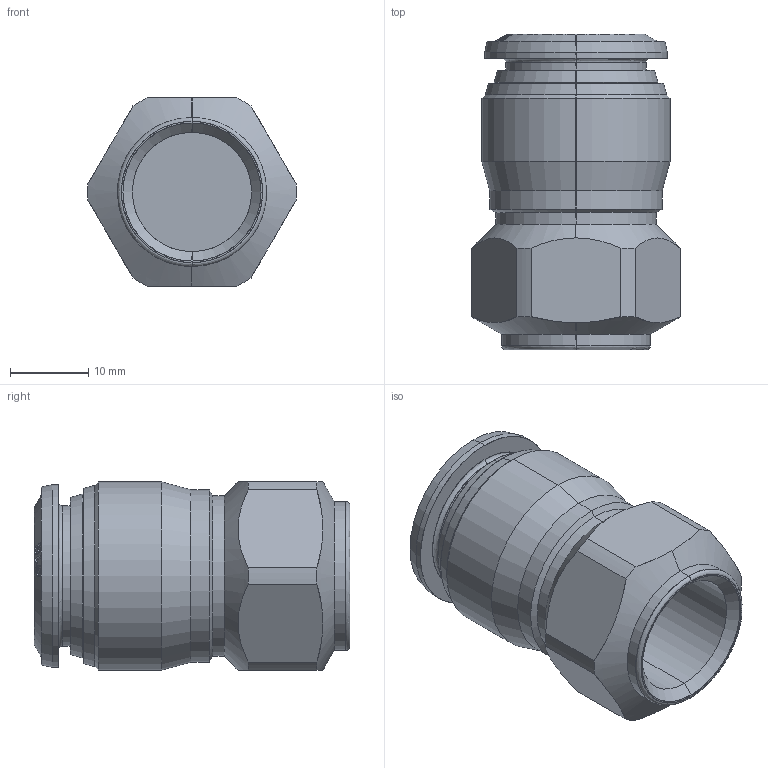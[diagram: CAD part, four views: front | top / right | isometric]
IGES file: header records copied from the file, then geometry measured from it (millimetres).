
Start section: SolidWorks IGES file using analytic representation for surfaces
Global section: file name: \\192.168.0.114\Utecnico\Disegni\Disegni Esecutivi\SERIE 50000\ASSIEMI_50000\50030\IGES e STEP\5003000016A.IGS; native system: SolidWorks 2020; preprocessor: SolidWorks 2020; author: cad06; date: 231102.114250; units: millimetre
Bounding box: 26.59 x 40.25 x 24 mm (x, y, z)
Surface area: 5828.9 mm2 (no closed solid volume)
Topology: 0 solids, 0 shells, 111 faces, 1168 edges, 1168 vertices
Faces by surface type: bspline 57, revolution 54
